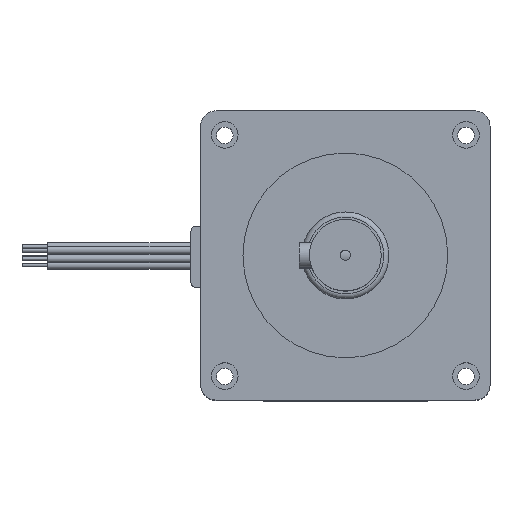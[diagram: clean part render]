
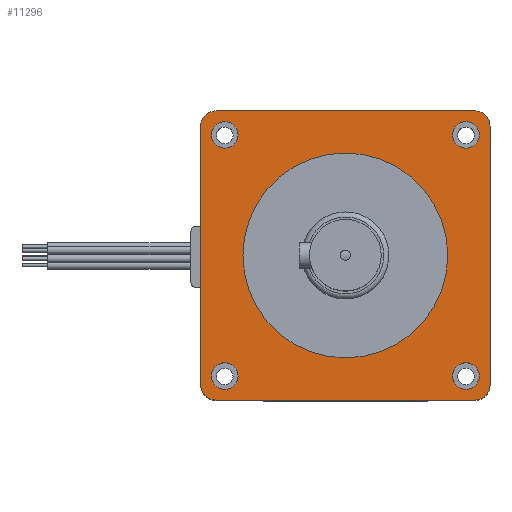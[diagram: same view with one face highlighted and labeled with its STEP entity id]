
A CAD part, top view. The second image highlights one B-rep face of the part: STEP entity #11296.
In plain terms, the highlighted planar face has unit normal (0, 0, 1).
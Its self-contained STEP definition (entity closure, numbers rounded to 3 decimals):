
#572=LINE('',#15644,#1717);
#573=LINE('',#15648,#1718);
#574=LINE('',#15652,#1719);
#575=LINE('',#15655,#1720);
#1717=VECTOR('',#12836,50.5);
#1718=VECTOR('',#12839,50.5);
#1719=VECTOR('',#12842,50.5);
#1720=VECTOR('',#12845,50.5);
#2860=PLANE('',#11985);
#3277=FACE_BOUND('',#4106,.T.);
#3278=FACE_BOUND('',#4107,.T.);
#3279=FACE_BOUND('',#4108,.T.);
#3280=FACE_BOUND('',#4109,.T.);
#3281=FACE_BOUND('',#4110,.T.);
#3426=FACE_OUTER_BOUND('',#4105,.T.);
#4105=EDGE_LOOP('',(#7927,#7928,#7929,#7930,#7931,#7932,#7933,#7934));
#4106=EDGE_LOOP('',(#7935));
#4107=EDGE_LOOP('',(#7936));
#4108=EDGE_LOOP('',(#7937));
#4109=EDGE_LOOP('',(#7938));
#4110=EDGE_LOOP('',(#7939));
#4885=CIRCLE('',#11951,2.6);
#4887=CIRCLE('',#11954,2.6);
#4889=CIRCLE('',#11957,2.6);
#4891=CIRCLE('',#11960,2.6);
#4901=CIRCLE('',#11983,20.);
#4902=CIRCLE('',#11986,3.);
#4903=CIRCLE('',#11987,3.);
#4904=CIRCLE('',#11988,3.);
#4905=CIRCLE('',#11989,3.);
#5115=VERTEX_POINT('',#15503);
#5117=VERTEX_POINT('',#15508);
#5119=VERTEX_POINT('',#15513);
#5121=VERTEX_POINT('',#15518);
#5138=VERTEX_POINT('',#15636);
#5139=VERTEX_POINT('',#15640);
#5140=VERTEX_POINT('',#15641);
#5141=VERTEX_POINT('',#15643);
#5142=VERTEX_POINT('',#15645);
#5143=VERTEX_POINT('',#15647);
#5144=VERTEX_POINT('',#15649);
#5145=VERTEX_POINT('',#15651);
#5146=VERTEX_POINT('',#15653);
#6230=EDGE_CURVE('',#5115,#5115,#4885,.T.);
#6232=EDGE_CURVE('',#5117,#5117,#4887,.T.);
#6234=EDGE_CURVE('',#5119,#5119,#4889,.T.);
#6236=EDGE_CURVE('',#5121,#5121,#4891,.T.);
#6257=EDGE_CURVE('',#5138,#5138,#4901,.T.);
#6258=EDGE_CURVE('',#5139,#5140,#4902,.T.);
#6259=EDGE_CURVE('',#5140,#5141,#572,.T.);
#6260=EDGE_CURVE('',#5141,#5142,#4903,.T.);
#6261=EDGE_CURVE('',#5142,#5143,#573,.T.);
#6262=EDGE_CURVE('',#5143,#5144,#4904,.T.);
#6263=EDGE_CURVE('',#5144,#5145,#574,.T.);
#6264=EDGE_CURVE('',#5145,#5146,#4905,.T.);
#6265=EDGE_CURVE('',#5146,#5139,#575,.T.);
#7927=ORIENTED_EDGE('',*,*,#6258,.T.);
#7928=ORIENTED_EDGE('',*,*,#6259,.T.);
#7929=ORIENTED_EDGE('',*,*,#6260,.T.);
#7930=ORIENTED_EDGE('',*,*,#6261,.T.);
#7931=ORIENTED_EDGE('',*,*,#6262,.T.);
#7932=ORIENTED_EDGE('',*,*,#6263,.T.);
#7933=ORIENTED_EDGE('',*,*,#6264,.T.);
#7934=ORIENTED_EDGE('',*,*,#6265,.T.);
#7935=ORIENTED_EDGE('',*,*,#6230,.T.);
#7936=ORIENTED_EDGE('',*,*,#6232,.T.);
#7937=ORIENTED_EDGE('',*,*,#6234,.T.);
#7938=ORIENTED_EDGE('',*,*,#6236,.T.);
#7939=ORIENTED_EDGE('',*,*,#6257,.T.);
#11296=ADVANCED_FACE('',(#3426,#3277,#3278,#3279,#3280,#3281),#2860,.T.);
#11951=AXIS2_PLACEMENT_3D('',#15504,#12756,#12757);
#11954=AXIS2_PLACEMENT_3D('',#15509,#12762,#12763);
#11957=AXIS2_PLACEMENT_3D('',#15514,#12768,#12769);
#11960=AXIS2_PLACEMENT_3D('',#15519,#12774,#12775);
#11983=AXIS2_PLACEMENT_3D('',#15637,#12828,#12829);
#11985=AXIS2_PLACEMENT_3D('',#15639,#12832,#12833);
#11986=AXIS2_PLACEMENT_3D('',#15642,#12834,#12835);
#11987=AXIS2_PLACEMENT_3D('',#15646,#12837,#12838);
#11988=AXIS2_PLACEMENT_3D('',#15650,#12840,#12841);
#11989=AXIS2_PLACEMENT_3D('',#15654,#12843,#12844);
#12756=DIRECTION('center_axis',(0.,0.,-1.));
#12757=DIRECTION('ref_axis',(1.,0.,0.));
#12762=DIRECTION('center_axis',(0.,0.,-1.));
#12763=DIRECTION('ref_axis',(1.,0.,0.));
#12768=DIRECTION('center_axis',(0.,0.,-1.));
#12769=DIRECTION('ref_axis',(1.,0.,0.));
#12774=DIRECTION('center_axis',(0.,0.,-1.));
#12775=DIRECTION('ref_axis',(1.,0.,0.));
#12828=DIRECTION('center_axis',(0.,0.,-1.));
#12829=DIRECTION('ref_axis',(-1.,0.,0.));
#12832=DIRECTION('center_axis',(0.,0.,1.));
#12833=DIRECTION('ref_axis',(1.,0.,0.));
#12834=DIRECTION('center_axis',(0.,0.,1.));
#12835=DIRECTION('ref_axis',(0.,1.,0.));
#12836=DIRECTION('',(0.,-1.,0.));
#12837=DIRECTION('center_axis',(0.,0.,1.));
#12838=DIRECTION('ref_axis',(-1.,0.,0.));
#12839=DIRECTION('',(1.,0.,0.));
#12840=DIRECTION('center_axis',(0.,0.,1.));
#12841=DIRECTION('ref_axis',(0.,-1.,0.));
#12842=DIRECTION('',(0.,1.,0.));
#12843=DIRECTION('center_axis',(0.,0.,1.));
#12844=DIRECTION('ref_axis',(1.,0.,0.));
#12845=DIRECTION('',(-1.,0.,0.));
#15503=CARTESIAN_POINT('',(54.4,51.8,62.2));
#15504=CARTESIAN_POINT('Origin',(51.8,51.8,62.2));
#15508=CARTESIAN_POINT('',(7.3,4.7,62.2));
#15509=CARTESIAN_POINT('Origin',(4.7,4.7,62.2));
#15513=CARTESIAN_POINT('',(7.3,51.8,62.2));
#15514=CARTESIAN_POINT('Origin',(4.7,51.8,62.2));
#15518=CARTESIAN_POINT('',(54.4,4.7,62.2));
#15519=CARTESIAN_POINT('Origin',(51.8,4.7,62.2));
#15636=CARTESIAN_POINT('',(48.25,28.25,62.2));
#15637=CARTESIAN_POINT('Origin',(28.25,28.25,62.2));
#15639=CARTESIAN_POINT('Origin',(28.25,28.25,62.2));
#15640=CARTESIAN_POINT('',(3.,56.5,62.2));
#15641=CARTESIAN_POINT('',(0.,53.5,62.2));
#15642=CARTESIAN_POINT('Origin',(3.,53.5,62.2));
#15643=CARTESIAN_POINT('',(0.,3.,62.2));
#15644=CARTESIAN_POINT('',(0.,53.5,62.2));
#15645=CARTESIAN_POINT('',(3.,0.,62.2));
#15646=CARTESIAN_POINT('Origin',(3.,3.,62.2));
#15647=CARTESIAN_POINT('',(53.5,0.,62.2));
#15648=CARTESIAN_POINT('',(3.,0.,62.2));
#15649=CARTESIAN_POINT('',(56.5,3.,62.2));
#15650=CARTESIAN_POINT('Origin',(53.5,3.,62.2));
#15651=CARTESIAN_POINT('',(56.5,53.5,62.2));
#15652=CARTESIAN_POINT('',(56.5,3.,62.2));
#15653=CARTESIAN_POINT('',(53.5,56.5,62.2));
#15654=CARTESIAN_POINT('Origin',(53.5,53.5,62.2));
#15655=CARTESIAN_POINT('',(53.5,56.5,62.2));
